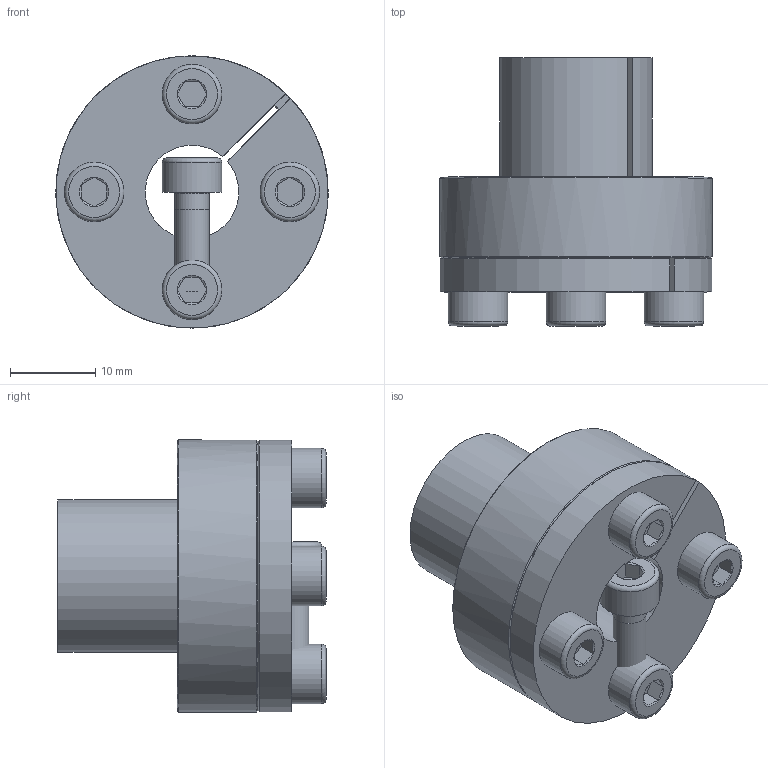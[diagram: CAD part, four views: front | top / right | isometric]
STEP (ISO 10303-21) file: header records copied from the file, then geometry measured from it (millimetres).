
FILE_DESCRIPTION( ( 'Unknown' ), '1' );
FILE_NAME( 'C:/Dokumente und Einstellungen/Sven/Desktop/homepage/cad - homepage/KBS80/KBS 80 - 11 x 18.stp', 'Unknown', ( 'Unknown' ), ( 'Unknown' ), 'XStep 1.0', 'Unknown', ' ' );
FILE_SCHEMA( ( 'automotive_design' ) );
Length unit declared in the file: millimetre
Products named in the file (6): Assem1; KBS 80 - 11 x 18; ISO EN DIN 4762 M4x12; ISO EN DIN 4762 M4x12-oa0; ISO EN DIN 4762 M4x12-oa1; ISO EN DIN 4762 M4x12-oa2
Bounding box: 32 x 31.5 x 32 mm (x, y, z)
Volume: 24255 mm3; surface area: 13507.7 mm2
Topology: 10 solids, 10 shells, 248 faces, 478 edges, 280 vertices
Faces by surface type: plane 112, cone 70, cylinder 50, torus 16
Full cylindrical faces by diameter (mm): 3.5 x8, 4 x24, 7 x8, 32 x2
Entity records: 3259 total; most frequent: CARTESIAN_POINT 629, DIRECTION 516, ORIENTED_EDGE 386, AXIS2_PLACEMENT_3D 225, EDGE_CURVE 193, EDGE_LOOP 185, FACE_OUTER_BOUND 153, VERTEX_POINT 130
